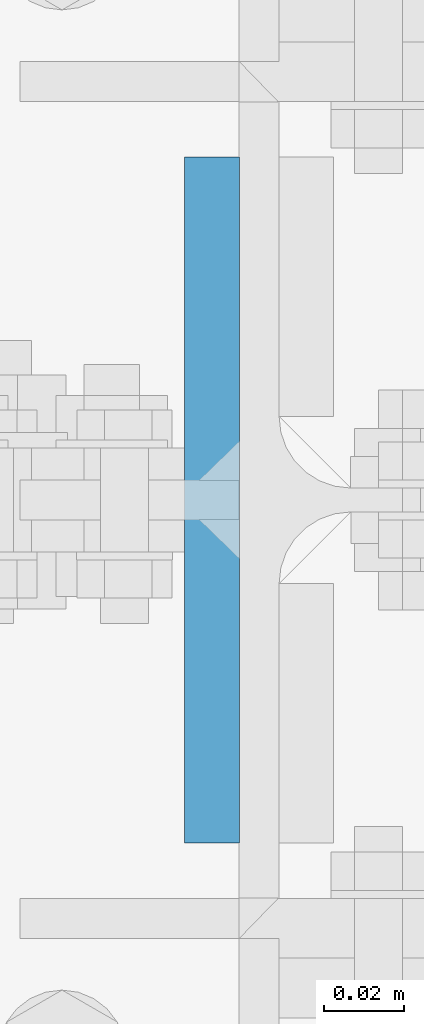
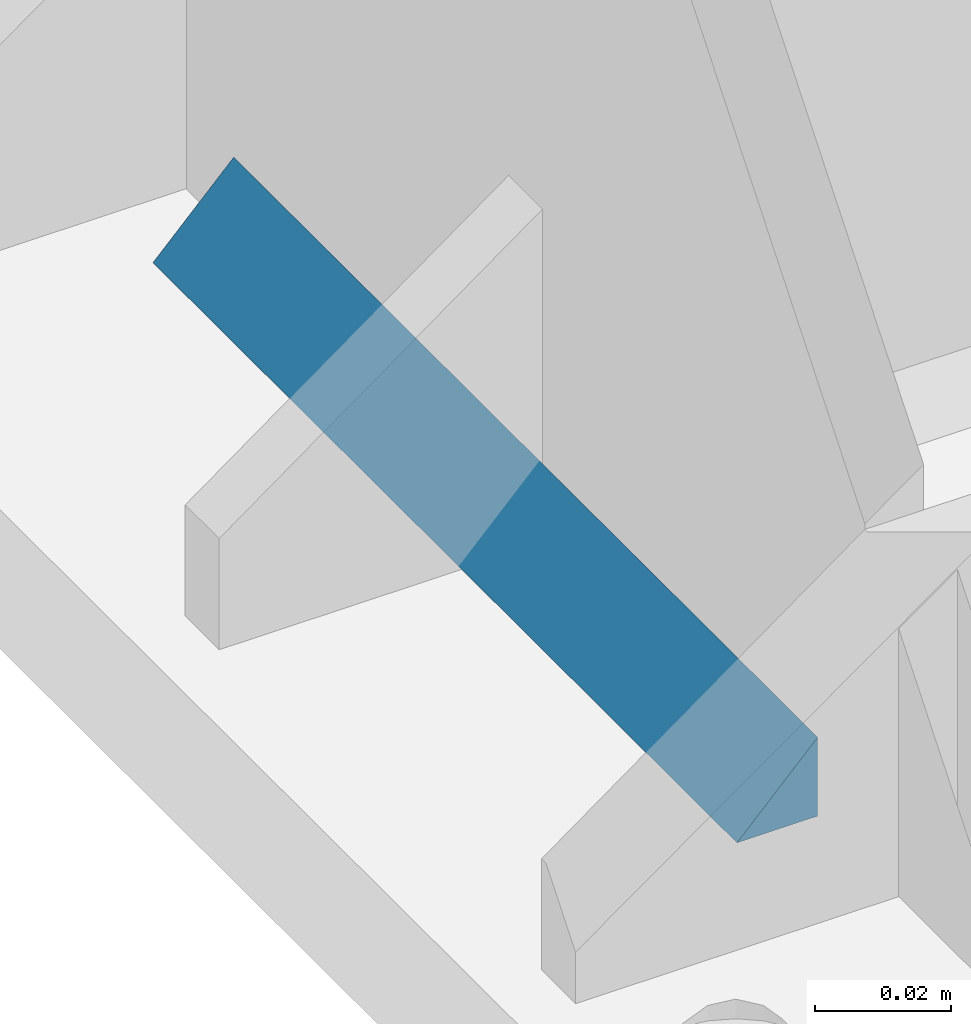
# One storey, part 30 of 251: 2 fasteners.
"""IFC4 building model written with IfcOpenShell, lengths in metres."""

import ifcopenshell
import ifcopenshell.guid

model = None  # the IFC model being written
_history = None  # IfcOwnerHistory: only IFC2X3 demands one
_inside = {}  # id of a spatial element -> (the spatial element, [elements in it])
_under = {}  # id of a project, library or spatial element -> (it, [spatial elements below it])
_declared = {}  # id of a project -> (the project, [libraries it declares])
_typed = {}  # id of a type object -> (the type object, [elements of that type])
_made_of = {}  # id of a material, layer set ... -> (it, [elements and type objects made of it])


def new_model(schema):
    """Start an empty IFC model of exactly this schema.

    Asked for "IFC4X3", IfcOpenShell would pick the latest addendum, in which some entities
    have other attributes; the version numbers below select the first issue.
    IFC2X3 requires an IfcOwnerHistory on every rooted entity: one is made here for all.
    """
    global model, _history
    if schema == "IFC4X3":
        model = ifcopenshell.file(schema_version=(4, 3, 0, 0))
    else:
        model = ifcopenshell.file(schema=schema)
    _inside.clear()
    _under.clear()
    _declared.clear()
    _typed.clear()
    _made_of.clear()
    _history = None
    if model.schema == "IFC2X3":
        org = make("IfcOrganization", Name="unknown")
        user = make(
            "IfcPersonAndOrganization",
            ThePerson=make("IfcPerson", FamilyName="unknown"),
            TheOrganization=org,
        )
        app = make(
            "IfcApplication",
            ApplicationDeveloper=org,
            Version="unknown",
            ApplicationFullName="unknown",
            ApplicationIdentifier="unknown",
        )
        _history = make(
            "IfcOwnerHistory",
            OwningUser=user,
            OwningApplication=app,
            ChangeAction="ADDED",
            CreationDate=0,
        )
    return model


def make(cls, **values):
    """One entity of the class cls with the attributes given. An attribute that is None is left unset."""
    return model.create_entity(
        cls, **{name: value for name, value in values.items() if value is not None}
    )


def rooted(cls, **values):
    """An entity with a GlobalId (a new one), such as an element, a storey or a relation."""
    return make(cls, GlobalId=ifcopenshell.guid.new(), OwnerHistory=_history, **values)


def si_unit(unit_type, name, prefix=None):
    """IfcSIUnit, for example si_unit("LENGTHUNIT", "METRE", prefix="MILLI")."""
    return make("IfcSIUnit", UnitType=unit_type, Prefix=prefix, Name=name)


def assignment(units):
    """IfcUnitAssignment: the units of a project."""
    return None if units is None else make("IfcUnitAssignment", Units=units)


def point(xyz):
    """IfcCartesianPoint."""
    return None if xyz is None else make("IfcCartesianPoint", Coordinates=xyz)


def direction(xyz):
    """IfcDirection."""
    return None if xyz is None else make("IfcDirection", DirectionRatios=xyz)


def frame(location, z_axis=None, x_axis=None):
    """IfcAxis2Placement3D, a coordinate frame: its origin and axes. An axis left out is left unset."""
    return make(
        "IfcAxis2Placement3D",
        Location=point(location),
        Axis=direction(z_axis),
        RefDirection=direction(x_axis),
    )


def origin_with_axes():
    """The frame at (0, 0, 0) with the z axis (0, 0, 1) and the x axis (1, 0, 0) written out."""
    return frame((0.0, 0.0, 0.0), z_axis=(0.0, 0.0, 1.0), x_axis=(1.0, 0.0, 0.0))


def place(relative_to, where):
    """IfcLocalPlacement: puts the frame where relative to a parent placement (None: the world)."""
    return make(
        "IfcLocalPlacement", PlacementRelTo=relative_to, RelativePlacement=where
    )


def context(
    kind, dimensions, precision=None, world=None, true_north=None, identifier=None
):
    """IfcGeometricRepresentationContext, for example the 3D "Model" context."""
    return make(
        "IfcGeometricRepresentationContext",
        ContextIdentifier=identifier,
        ContextType=kind,
        CoordinateSpaceDimension=dimensions,
        Precision=precision,
        WorldCoordinateSystem=world,
        TrueNorth=true_north,
    )


def project(units=None, contexts=None):
    """IfcProject with its units and contexts."""
    return rooted(
        "IfcProject",
        Name="project",
        RepresentationContexts=contexts,
        UnitsInContext=assignment(units),
    )


def spatial(cls, under=None, at=None, **own):
    """A site, building, storey or space (cls), placed at a placement, below another one or the project."""
    s = rooted(cls, ObjectPlacement=at, **own)
    if under is not None:
        _under.setdefault(under.id(), (under, []))[1].append(s)
    return s


def polyline(points):
    """IfcPolyline through the points."""
    return make("IfcPolyline", Points=[point(p) for p in points])


def outline(outer, holes=None, kind="AREA"):
    """IfcArbitraryClosedProfileDef: a profile drawn as a closed curve; with holes, ...WithVoids."""
    if holes is None:
        return make("IfcArbitraryClosedProfileDef", ProfileType=kind, OuterCurve=outer)
    return make(
        "IfcArbitraryProfileDefWithVoids",
        ProfileType=kind,
        OuterCurve=outer,
        InnerCurves=holes,
    )


def extrude(swept, where, along, depth):
    """IfcExtrudedAreaSolid: the profile swept, set in the frame where, extruded along a direction by depth."""
    return make(
        "IfcExtrudedAreaSolid",
        SweptArea=swept,
        Position=where,
        ExtrudedDirection=direction(along),
        Depth=depth,
    )


def shape(context_of_items, identifier, shape_type, items):
    """IfcShapeRepresentation: the items that make up one representation, for example the "Body"."""
    return make(
        "IfcShapeRepresentation",
        ContextOfItems=context_of_items,
        RepresentationIdentifier=identifier,
        RepresentationType=shape_type,
        Items=items,
    )


def made_of(thing, what):
    """Note that an element or type object is made of a material, layer set ...; save() writes the relation."""
    if what is not None:
        _made_of.setdefault(what.id(), (what, []))[1].append(thing)
    return thing


def type_object(cls, material=None, **own):
    """A type object (cls), such as IfcWallType, which elements share."""
    return made_of(rooted(cls, **own), material)


def element(
    cls,
    number,
    at=None,
    inside=None,
    cuts=None,
    type_object=None,
    material=None,
    context=None,
    identifier="Body",
    shape_type=None,
    held_by="IfcProductDefinitionShape",
    body=None,
    shapes=None,
    **own,
):
    """One element of the class cls, such as IfcWall. Its Tag is "e" and its number.

    at: its placement. inside: the storey or other place that contains it. cuts: it is an
    opening in that element (IfcRelVoidsElement). A single representation is given by context,
    identifier, shape_type and body (its items); several are given by shapes. held_by: the class
    of the entity that holds the representations. save() writes the other relations.
    """
    e = rooted(cls, Tag="e%d" % number, ObjectPlacement=at, **own)
    if body is not None:
        shapes = [shape(context, identifier, shape_type, body)]
    if shapes is not None:
        e.Representation = make(held_by, Representations=shapes)
    if inside is not None:
        _inside.setdefault(inside.id(), (inside, []))[1].append(e)
    if cuts is not None:
        rooted(
            "IfcRelVoidsElement", RelatingBuildingElement=cuts, RelatedOpeningElement=e
        )
    if type_object is not None:
        _typed.setdefault(type_object.id(), (type_object, []))[1].append(e)
    return made_of(e, material)


def aggregate(whole, parts):
    """IfcRelAggregates: a whole, such as a stair, and the parts it consists of."""
    return rooted("IfcRelAggregates", RelatingObject=whole, RelatedObjects=parts)


def save(model, path):
    """Write the relations noted so far, then the file.

    IfcRelAggregates (storeys below a building ...), IfcRelContainedInSpatialStructure (elements
    in a storey), IfcRelDefinesByType, IfcRelAssociatesMaterial and IfcRelDeclares: one each for
    every whole, place, type object, material and project.
    """
    for whole, parts in _under.values():
        aggregate(whole, parts)
    for where, things in _inside.values():
        rooted(
            "IfcRelContainedInSpatialStructure",
            RelatedElements=things,
            RelatingStructure=where,
        )
    for kind, things in _typed.values():
        rooted("IfcRelDefinesByType", RelatedObjects=things, RelatingType=kind)
    for what, things in _made_of.values():
        rooted("IfcRelAssociatesMaterial", RelatedObjects=things, RelatingMaterial=what)
    for by, libraries in _declared.values():
        rooted("IfcRelDeclares", RelatingContext=by, RelatedDefinitions=libraries)
    model.write(path)


model = new_model("IFC4")

# Units and contexts
model_context = context("Model", 3, precision=1e-05, world=origin_with_axes())
ifc_project = project(units=[si_unit("LENGTHUNIT", "METRE"), si_unit("AREAUNIT", "SQUARE_METRE"), si_unit("VOLUMEUNIT", "CUBIC_METRE"), si_unit("MASSUNIT", "GRAM", prefix="KILO"), si_unit("TIMEUNIT", "SECOND"), si_unit("PLANEANGLEUNIT", "RADIAN"), si_unit("SOLIDANGLEUNIT", "STERADIAN"), si_unit("THERMODYNAMICTEMPERATUREUNIT", "DEGREE_CELSIUS")], contexts=[model_context])

# Site, building, storey
placement_1 = place(None, origin_with_axes())
site = spatial("IfcSite", under=ifc_project, at=placement_1, Name="Italia", CompositionType="ELEMENT")
building = spatial("IfcBuilding", under=site, at=placement_1, Name="Deposito", CompositionType="ELEMENT")
storey = spatial("IfcBuildingStorey", under=building, at=placement_1, Name="Storey 0", CompositionType="ELEMENT", Elevation=0.0)

# Fasteners
fastener_type_1 = type_object("IfcFastenerType", Name="Collegamenti 0014_-001 0016_-054 0018_-056 0032_-002 0033_-058 0047_-003 0048_-060 0062_-004 0063_-005 0079_-008", PredefinedType="WELD")
placement_2 = place(placement_1, origin_with_axes())
fastener_1_placement = place(placement_2, origin_with_axes())
element("IfcFastener", 1, at=fastener_1_placement, inside=storey, type_object=fastener_type_1, Name="Collegamenti 0014_-001 0016_-054 0018_-056 0032_-002 0033_-058 0047_-003 0048_-060 0062_-004 0063_-005 0079_-008", context=model_context, shape_type="SweptSolid", body=[
    extrude(outline(polyline([(0.0, 0.0), (0.0137482, 0.0141734), (0.0137482, 0.0), (0.0, 0.0)])), frame((19.8913, 5.08605, 0.07495), z_axis=(0.0, -1.0, 0.0), x_axis=(1.0, 0.0, 0.0)), (0.0, 0.0, 1.0), 0.1721),
])
fastener_type_2 = type_object("IfcFastenerType", Name="Collegamenti 0014_-001 0016_-054 0018_-056 0032_-002 0033_-058 0047_-003 0048_-060 0062_-004 0063_-005 0079_-008", PredefinedType="WELD")
fastener_2_placement = place(placement_2, origin_with_axes())
element("IfcFastener", 2, at=fastener_2_placement, inside=storey, type_object=fastener_type_2, Name="Collegamenti 0014_-001 0016_-054 0018_-056 0032_-002 0033_-058 0047_-003 0048_-060 0062_-004 0063_-005 0079_-008", context=model_context, shape_type="SweptSolid", body=[
    extrude(outline(polyline([(0.0, 0.0), (0.0137482, 0.0141734), (0.0137482, 0.0), (0.0, 0.0)])), frame((19.8913, 5.08605, 0.07495), z_axis=(0.0, -1.0, 0.0), x_axis=(1.0, 0.0, 0.0)), (0.0, 0.0, 1.0), 0.1721),
])

save(model, "model.ifc")
